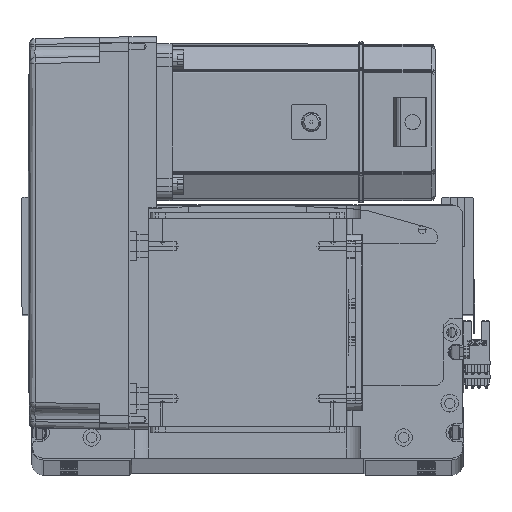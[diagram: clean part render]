
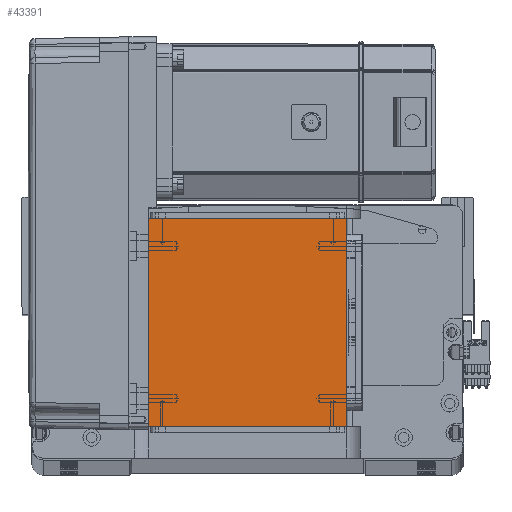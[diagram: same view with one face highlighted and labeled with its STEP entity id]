
A CAD part, top view. The second image highlights one B-rep face of the part: STEP entity #43391.
In plain terms, the highlighted planar face has unit normal (0, 0, 1).
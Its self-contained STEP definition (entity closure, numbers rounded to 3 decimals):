
#1863 = CARTESIAN_POINT ( 'NONE',  ( -50.5, 122., 115. ) ) ;
#9219 = DIRECTION ( 'NONE',  ( 0., -1., 0. ) ) ;
#10337 = DIRECTION ( 'NONE',  ( 1., 0., 0. ) ) ;
#10615 = CARTESIAN_POINT ( 'NONE',  ( -50.5, 16., 115. ) ) ;
#13007 = EDGE_CURVE ( 'NONE', #19473, #46543, #50289, .T. ) ;
#18653 = CARTESIAN_POINT ( 'NONE',  ( -50.5, 122., 115. ) ) ;
#19473 = VERTEX_POINT ( 'NONE', #1863 ) ;
#21409 = LINE ( 'NONE', #61518, #29147 ) ;
#22513 = AXIS2_PLACEMENT_3D ( 'NONE', #25124, #44683, #10337 ) ;
#24654 = CARTESIAN_POINT ( 'NONE',  ( -50.5, 16., 115. ) ) ;
#25124 = CARTESIAN_POINT ( 'NONE',  ( 0., 0., 115. ) ) ;
#29147 = VECTOR ( 'NONE', #42454, 1000. ) ;
#29730 = DIRECTION ( 'NONE',  ( 1., 0., 0. ) ) ;
#30535 = LINE ( 'NONE', #10615, #43618 ) ;
#32245 = DIRECTION ( 'NONE',  ( -1., 0., 0. ) ) ;
#34738 = VERTEX_POINT ( 'NONE', #57059 ) ;
#37463 = EDGE_CURVE ( 'NONE', #49211, #19473, #48465, .T. ) ;
#38139 = ORIENTED_EDGE ( 'NONE', *, *, #37463, .T. ) ;
#41271 = ORIENTED_EDGE ( 'NONE', *, *, #53595, .T. ) ;
#42454 = DIRECTION ( 'NONE',  ( 0., 1., 0. ) ) ;
#42876 = EDGE_CURVE ( 'NONE', #46543, #34738, #30535, .T. ) ;
#43391 = ADVANCED_FACE ( 'NONE', ( #56579 ), #54322, .T. ) ;
#43618 = VECTOR ( 'NONE', #29730, 1000. ) ;
#44683 = DIRECTION ( 'NONE',  ( 0., 0., 1. ) ) ;
#46543 = VERTEX_POINT ( 'NONE', #24654 ) ;
#48465 = LINE ( 'NONE', #61201, #53783 ) ;
#49099 = CARTESIAN_POINT ( 'NONE',  ( 50.5, 122., 115. ) ) ;
#49211 = VERTEX_POINT ( 'NONE', #49099 ) ;
#50289 = LINE ( 'NONE', #18653, #62521 ) ;
#53595 = EDGE_CURVE ( 'NONE', #34738, #49211, #21409, .T. ) ;
#53783 = VECTOR ( 'NONE', #32245, 1000. ) ;
#53916 = ORIENTED_EDGE ( 'NONE', *, *, #42876, .T. ) ;
#54322 = PLANE ( 'NONE',  #22513 ) ;
#56579 = FACE_OUTER_BOUND ( 'NONE', #58952, .T. ) ;
#57059 = CARTESIAN_POINT ( 'NONE',  ( 50.5, 16., 115. ) ) ;
#58952 = EDGE_LOOP ( 'NONE', ( #62750, #53916, #41271, #38139 ) ) ;
#61201 = CARTESIAN_POINT ( 'NONE',  ( -50.5, 122., 115. ) ) ;
#61518 = CARTESIAN_POINT ( 'NONE',  ( 50.5, 122., 115. ) ) ;
#62521 = VECTOR ( 'NONE', #9219, 1000. ) ;
#62750 = ORIENTED_EDGE ( 'NONE', *, *, #13007, .T. ) ;
